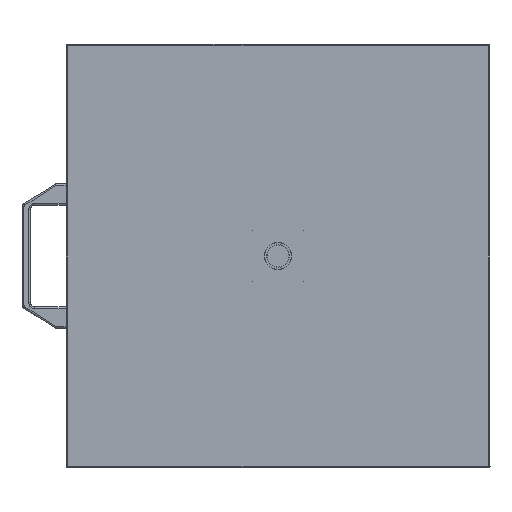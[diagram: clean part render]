
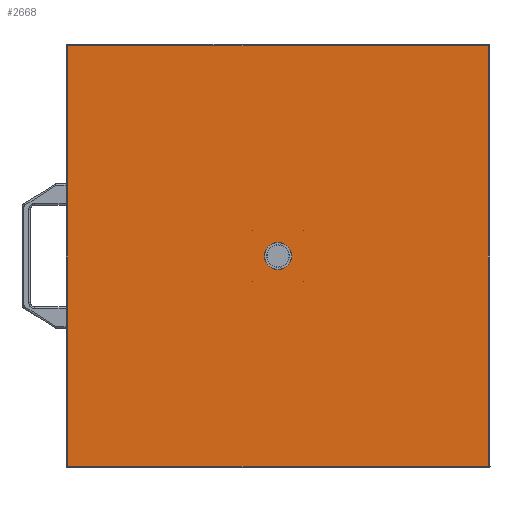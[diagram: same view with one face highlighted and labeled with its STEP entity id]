
A CAD part, front view. The second image highlights one B-rep face of the part: STEP entity #2668.
In plain terms, the highlighted planar face has unit normal (0, -1, 0).
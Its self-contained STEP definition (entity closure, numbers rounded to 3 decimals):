
#26 = DIRECTION ( 'NONE',  ( 0., 0., -1. ) ) ;
#94 = PLANE ( 'NONE',  #8289 ) ;
#117 = VERTEX_POINT ( 'NONE', #21120 ) ;
#224 = EDGE_LOOP ( 'NONE', ( #17050 ) ) ;
#253 = CARTESIAN_POINT ( 'NONE',  ( 30., -250., 30.165 ) ) ;
#338 = LINE ( 'NONE', #11428, #32313 ) ;
#342 = EDGE_CURVE ( 'NONE', #29117, #29117, #4460, .T. ) ;
#375 = DIRECTION ( 'NONE',  ( 0., 0., 1. ) ) ;
#593 = DIRECTION ( 'NONE',  ( 0., 1., 0. ) ) ;
#675 = CARTESIAN_POINT ( 'NONE',  ( -248., -250., -248. ) ) ;
#686 = EDGE_CURVE ( 'NONE', #7440, #22414, #20661, .T. ) ;
#1009 = DIRECTION ( 'NONE',  ( 0., 0., -1. ) ) ;
#1144 = CARTESIAN_POINT ( 'NONE',  ( -248., -250., -247.999 ) ) ;
#1169 = CARTESIAN_POINT ( 'NONE',  ( 30., -250., 30. ) ) ;
#1186 = VERTEX_POINT ( 'NONE', #2815 ) ;
#1655 = ORIENTED_EDGE ( 'NONE', *, *, #13086, .T. ) ;
#1804 = VERTEX_POINT ( 'NONE', #25863 ) ;
#2009 = CARTESIAN_POINT ( 'NONE',  ( -250.059, -250., 248. ) ) ;
#2047 = VECTOR ( 'NONE', #21790, 1000. ) ;
#2402 = DIRECTION ( 'NONE',  ( 0., 1., 0. ) ) ;
#2541 = EDGE_CURVE ( 'NONE', #117, #7566, #9168, .T. ) ;
#2668 = ADVANCED_FACE ( 'NONE', ( #25712, #24917, #32591, #4268, #11975, #30930 ), #94, .F. ) ;
#2721 = CARTESIAN_POINT ( 'NONE',  ( 250.059, -250., -248. ) ) ;
#2815 = CARTESIAN_POINT ( 'NONE',  ( 248., -250., -247.999 ) ) ;
#3078 = VERTEX_POINT ( 'NONE', #16529 ) ;
#3232 = ORIENTED_EDGE ( 'NONE', *, *, #13770, .F. ) ;
#4219 = VECTOR ( 'NONE', #21744, 1000. ) ;
#4268 = FACE_BOUND ( 'NONE', #15557, .T. ) ;
#4460 = CIRCLE ( 'NONE', #5855, 0.165 ) ;
#4482 = CARTESIAN_POINT ( 'NONE',  ( -30., -250., 30.165 ) ) ;
#4505 = ORIENTED_EDGE ( 'NONE', *, *, #30997, .F. ) ;
#5017 = CARTESIAN_POINT ( 'NONE',  ( -250., -250., -247.999 ) ) ;
#5109 = DIRECTION ( 'NONE',  ( 0., 0., 1. ) ) ;
#5789 = CIRCLE ( 'NONE', #9964, 0.165 ) ;
#5855 = AXIS2_PLACEMENT_3D ( 'NONE', #20570, #24709, #16958 ) ;
#5884 = EDGE_LOOP ( 'NONE', ( #18807 ) ) ;
#6013 = VERTEX_POINT ( 'NONE', #8676 ) ;
#6534 = LINE ( 'NONE', #675, #33218 ) ;
#6761 = EDGE_CURVE ( 'NONE', #16209, #16209, #30202, .T. ) ;
#6774 = CARTESIAN_POINT ( 'NONE',  ( 248., -250., 249.2 ) ) ;
#6925 = DIRECTION ( 'NONE',  ( 0., 0., 1. ) ) ;
#7291 = CARTESIAN_POINT ( 'NONE',  ( -250., -250., -250. ) ) ;
#7350 = LINE ( 'NONE', #5017, #12626 ) ;
#7440 = VERTEX_POINT ( 'NONE', #21192 ) ;
#7566 = VERTEX_POINT ( 'NONE', #1144 ) ;
#7696 = EDGE_CURVE ( 'NONE', #16042, #117, #21707, .T. ) ;
#7766 = CARTESIAN_POINT ( 'NONE',  ( 0., -250., 16. ) ) ;
#7788 = EDGE_LOOP ( 'NONE', ( #11341, #25796, #17517, #26183, #26794, #32496, #31940, #26566, #3232, #4505, #29472, #16943 ) ) ;
#8289 = AXIS2_PLACEMENT_3D ( 'NONE', #7291, #593, #33348 ) ;
#8676 = CARTESIAN_POINT ( 'NONE',  ( -30., -250., -29.835 ) ) ;
#9100 = CARTESIAN_POINT ( 'NONE',  ( -250., -250., -247.999 ) ) ;
#9107 = EDGE_CURVE ( 'NONE', #24267, #24267, #5789, .T. ) ;
#9168 = LINE ( 'NONE', #9100, #16048 ) ;
#9964 = AXIS2_PLACEMENT_3D ( 'NONE', #1169, #29535, #16719 ) ;
#10729 = CARTESIAN_POINT ( 'NONE',  ( 30., -250., -30. ) ) ;
#11341 = ORIENTED_EDGE ( 'NONE', *, *, #11833, .T. ) ;
#11428 = CARTESIAN_POINT ( 'NONE',  ( -250., -250., 248. ) ) ;
#11529 = DIRECTION ( 'NONE',  ( 1., 0., 0. ) ) ;
#11833 = EDGE_CURVE ( 'NONE', #17980, #7440, #27002, .T. ) ;
#11975 = FACE_BOUND ( 'NONE', #224, .T. ) ;
#12626 = VECTOR ( 'NONE', #17952, 1000. ) ;
#13086 = EDGE_CURVE ( 'NONE', #6013, #6013, #25302, .T. ) ;
#13309 = DIRECTION ( 'NONE',  ( 0., 0., 1. ) ) ;
#13759 = EDGE_CURVE ( 'NONE', #17980, #25812, #24868, .T. ) ;
#13770 = EDGE_CURVE ( 'NONE', #1804, #1186, #17230, .T. ) ;
#13789 = CARTESIAN_POINT ( 'NONE',  ( 30., -250., -29.835 ) ) ;
#13827 = CARTESIAN_POINT ( 'NONE',  ( -247.999, -250., -250. ) ) ;
#14792 = EDGE_LOOP ( 'NONE', ( #1655 ) ) ;
#14842 = VECTOR ( 'NONE', #31875, 1000. ) ;
#15237 = EDGE_CURVE ( 'NONE', #7566, #22414, #6534, .T. ) ;
#15557 = EDGE_LOOP ( 'NONE', ( #16770 ) ) ;
#15818 = LINE ( 'NONE', #2721, #2047 ) ;
#16042 = VERTEX_POINT ( 'NONE', #25382 ) ;
#16048 = VECTOR ( 'NONE', #23912, 1000. ) ;
#16209 = VERTEX_POINT ( 'NONE', #7766 ) ;
#16249 = DIRECTION ( 'NONE',  ( 0., 1., 0. ) ) ;
#16505 = EDGE_CURVE ( 'NONE', #27368, #24294, #32032, .T. ) ;
#16529 = CARTESIAN_POINT ( 'NONE',  ( 247.999, -250., 248. ) ) ;
#16684 = EDGE_CURVE ( 'NONE', #24294, #1186, #7350, .T. ) ;
#16719 = DIRECTION ( 'NONE',  ( 0., 0., 1. ) ) ;
#16770 = ORIENTED_EDGE ( 'NONE', *, *, #33375, .T. ) ;
#16943 = ORIENTED_EDGE ( 'NONE', *, *, #13759, .F. ) ;
#16958 = DIRECTION ( 'NONE',  ( 0., 0., 1. ) ) ;
#17050 = ORIENTED_EDGE ( 'NONE', *, *, #6761, .T. ) ;
#17186 = AXIS2_PLACEMENT_3D ( 'NONE', #10729, #28775, #13309 ) ;
#17230 = LINE ( 'NONE', #6774, #23244 ) ;
#17490 = CIRCLE ( 'NONE', #17186, 0.165 ) ;
#17517 = ORIENTED_EDGE ( 'NONE', *, *, #15237, .F. ) ;
#17952 = DIRECTION ( 'NONE',  ( 1., 0., 0. ) ) ;
#17980 = VERTEX_POINT ( 'NONE', #22978 ) ;
#18047 = CARTESIAN_POINT ( 'NONE',  ( 247.999, -250., 248. ) ) ;
#18220 = CARTESIAN_POINT ( 'NONE',  ( 0., -250., 0. ) ) ;
#18493 = VERTEX_POINT ( 'NONE', #13789 ) ;
#18807 = ORIENTED_EDGE ( 'NONE', *, *, #9107, .T. ) ;
#19399 = VECTOR ( 'NONE', #1009, 1000. ) ;
#20214 = EDGE_CURVE ( 'NONE', #25812, #3078, #32607, .T. ) ;
#20570 = CARTESIAN_POINT ( 'NONE',  ( -30., -250., 30. ) ) ;
#20657 = AXIS2_PLACEMENT_3D ( 'NONE', #31451, #2402, #6925 ) ;
#20661 = LINE ( 'NONE', #29239, #33551 ) ;
#21120 = CARTESIAN_POINT ( 'NONE',  ( -247.999, -250., -247.999 ) ) ;
#21192 = CARTESIAN_POINT ( 'NONE',  ( -247.999, -250., 248. ) ) ;
#21707 = LINE ( 'NONE', #13827, #14842 ) ;
#21709 = EDGE_CURVE ( 'NONE', #27368, #16042, #15818, .T. ) ;
#21744 = DIRECTION ( 'NONE',  ( 1., 0., 0. ) ) ;
#21790 = DIRECTION ( 'NONE',  ( -1., 0., 0. ) ) ;
#22414 = VERTEX_POINT ( 'NONE', #31649 ) ;
#22978 = CARTESIAN_POINT ( 'NONE',  ( -247.999, -250., 248. ) ) ;
#23120 = AXIS2_PLACEMENT_3D ( 'NONE', #18220, #16249, #5109 ) ;
#23244 = VECTOR ( 'NONE', #30624, 1000. ) ;
#23807 = DIRECTION ( 'NONE',  ( -1., 0., 0. ) ) ;
#23912 = DIRECTION ( 'NONE',  ( -1., 0., 0. ) ) ;
#24267 = VERTEX_POINT ( 'NONE', #253 ) ;
#24294 = VERTEX_POINT ( 'NONE', #29378 ) ;
#24572 = ORIENTED_EDGE ( 'NONE', *, *, #342, .T. ) ;
#24709 = DIRECTION ( 'NONE',  ( 0., 1., 0. ) ) ;
#24868 = LINE ( 'NONE', #2009, #4219 ) ;
#24917 = FACE_BOUND ( 'NONE', #25123, .T. ) ;
#25123 = EDGE_LOOP ( 'NONE', ( #24572 ) ) ;
#25171 = VECTOR ( 'NONE', #375, 1000. ) ;
#25274 = CARTESIAN_POINT ( 'NONE',  ( 247.999, -250., -250. ) ) ;
#25302 = CIRCLE ( 'NONE', #20657, 0.165 ) ;
#25382 = CARTESIAN_POINT ( 'NONE',  ( -247.999, -250., -248. ) ) ;
#25712 = FACE_BOUND ( 'NONE', #14792, .T. ) ;
#25728 = VECTOR ( 'NONE', #26, 1000. ) ;
#25796 = ORIENTED_EDGE ( 'NONE', *, *, #686, .T. ) ;
#25812 = VERTEX_POINT ( 'NONE', #18047 ) ;
#25863 = CARTESIAN_POINT ( 'NONE',  ( 248., -250., 248. ) ) ;
#26183 = ORIENTED_EDGE ( 'NONE', *, *, #2541, .F. ) ;
#26311 = CARTESIAN_POINT ( 'NONE',  ( -247.999, -250., -250. ) ) ;
#26566 = ORIENTED_EDGE ( 'NONE', *, *, #16684, .T. ) ;
#26794 = ORIENTED_EDGE ( 'NONE', *, *, #7696, .F. ) ;
#27002 = LINE ( 'NONE', #26311, #19399 ) ;
#27048 = DIRECTION ( 'NONE',  ( 0., 0., 1. ) ) ;
#27368 = VERTEX_POINT ( 'NONE', #33233 ) ;
#27710 = CARTESIAN_POINT ( 'NONE',  ( 247.999, -250., -250. ) ) ;
#28775 = DIRECTION ( 'NONE',  ( 0., 1., 0. ) ) ;
#29117 = VERTEX_POINT ( 'NONE', #4482 ) ;
#29239 = CARTESIAN_POINT ( 'NONE',  ( -250., -250., 248. ) ) ;
#29378 = CARTESIAN_POINT ( 'NONE',  ( 247.999, -250., -247.999 ) ) ;
#29472 = ORIENTED_EDGE ( 'NONE', *, *, #20214, .F. ) ;
#29535 = DIRECTION ( 'NONE',  ( 0., 1., 0. ) ) ;
#30202 = CIRCLE ( 'NONE', #23120, 16. ) ;
#30624 = DIRECTION ( 'NONE',  ( 0., 0., -1. ) ) ;
#30930 = FACE_OUTER_BOUND ( 'NONE', #7788, .T. ) ;
#30997 = EDGE_CURVE ( 'NONE', #3078, #1804, #338, .T. ) ;
#31451 = CARTESIAN_POINT ( 'NONE',  ( -30., -250., -30. ) ) ;
#31649 = CARTESIAN_POINT ( 'NONE',  ( -248., -250., 248. ) ) ;
#31875 = DIRECTION ( 'NONE',  ( 0., 0., 1. ) ) ;
#31940 = ORIENTED_EDGE ( 'NONE', *, *, #16505, .T. ) ;
#32032 = LINE ( 'NONE', #27710, #25171 ) ;
#32313 = VECTOR ( 'NONE', #11529, 1000. ) ;
#32496 = ORIENTED_EDGE ( 'NONE', *, *, #21709, .F. ) ;
#32591 = FACE_BOUND ( 'NONE', #5884, .T. ) ;
#32607 = LINE ( 'NONE', #25274, #25728 ) ;
#33218 = VECTOR ( 'NONE', #27048, 1000. ) ;
#33233 = CARTESIAN_POINT ( 'NONE',  ( 247.999, -250., -248. ) ) ;
#33348 = DIRECTION ( 'NONE',  ( 0., 0., 1. ) ) ;
#33375 = EDGE_CURVE ( 'NONE', #18493, #18493, #17490, .T. ) ;
#33551 = VECTOR ( 'NONE', #23807, 1000. ) ;
